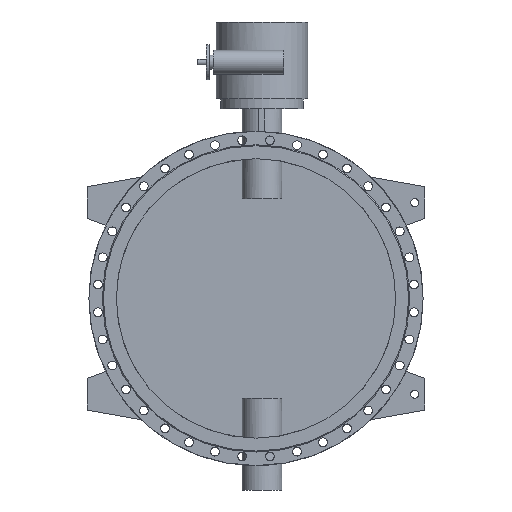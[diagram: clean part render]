
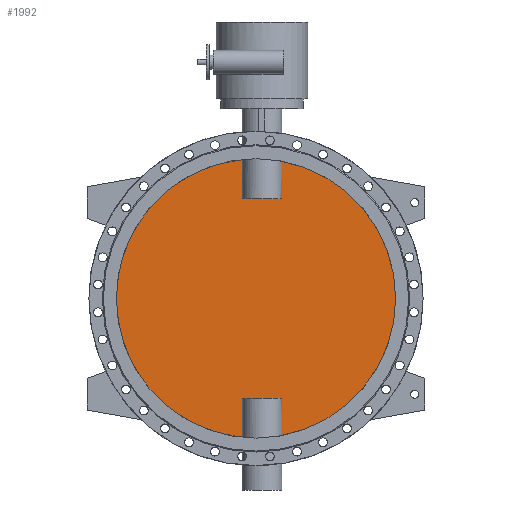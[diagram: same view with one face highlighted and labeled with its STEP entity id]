
A CAD part, front view. The second image highlights one B-rep face of the part: STEP entity #1992.
In plain terms, the highlighted planar face has unit normal (0, -1, 0).
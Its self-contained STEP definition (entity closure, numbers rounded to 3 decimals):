
#1992=ADVANCED_FACE('',(#4228),#4230,.F.);
#4228=FACE_BOUND('',#4229,.T.);
#4229=EDGE_LOOP('',(#5234,#5235,#5236,#5237,#5238,#5239,#5240,#5241));
#4230=PLANE('',#4231);
#4231=AXIS2_PLACEMENT_3D('',#4232,#4233,#4234);
#4232=CARTESIAN_POINT('',(0.,-5.,0.));
#4233=DIRECTION('',(0.,1.,0.));
#4234=DIRECTION('',(1.,0.,0.));
#5234=ORIENTED_EDGE('',*,*,#5737,.T.);
#5235=ORIENTED_EDGE('',*,*,#5743,.T.);
#5236=ORIENTED_EDGE('',*,*,#5744,.T.);
#5237=ORIENTED_EDGE('',*,*,#5745,.T.);
#5238=ORIENTED_EDGE('',*,*,#5739,.T.);
#5239=ORIENTED_EDGE('',*,*,#5746,.T.);
#5240=ORIENTED_EDGE('',*,*,#5747,.T.);
#5241=ORIENTED_EDGE('',*,*,#5748,.T.);
#5737=EDGE_CURVE('',#6585,#6586,#6587,.F.);
#5739=EDGE_CURVE('',#6590,#6588,#6591,.F.);
#5743=EDGE_CURVE('',#6586,#6597,#6598,.T.);
#5744=EDGE_CURVE('',#6597,#6599,#6600,.F.);
#5745=EDGE_CURVE('',#6599,#6590,#6601,.F.);
#5746=EDGE_CURVE('',#6588,#6602,#6603,.F.);
#5747=EDGE_CURVE('',#6602,#6604,#6605,.F.);
#5748=EDGE_CURVE('',#6604,#6585,#6606,.T.);
#6585=VERTEX_POINT('',#9445);
#6586=VERTEX_POINT('',#9446);
#6587=CIRCLE('',#9447,700.);
#6588=VERTEX_POINT('',#9451);
#6590=VERTEX_POINT('',#9512);
#6591=CIRCLE('',#9513,700.);
#6597=VERTEX_POINT('',#9652);
#6598=LINE('',#9653,#9654);
#6599=VERTEX_POINT('',#9656);
#6600=LINE('',#9657,#9658);
#6601=LINE('',#9660,#9661);
#6602=VERTEX_POINT('',#9663);
#6603=LINE('',#9664,#9665);
#6604=VERTEX_POINT('',#9667);
#6605=LINE('',#9668,#9669);
#6606=LINE('',#9671,#9672);
#9445=CARTESIAN_POINT('',(129.875,-5.,-687.846));
#9446=CARTESIAN_POINT('',(129.875,-5.,687.846));
#9447=AXIS2_PLACEMENT_3D('',#9448,#9449,#9450);
#9448=CARTESIAN_POINT('',(0.,-5.,0.));
#9449=DIRECTION('',(0.,1.,0.));
#9450=DIRECTION('',(0.186,0.,0.983));
#9451=CARTESIAN_POINT('',(-69.875,-5.,-696.504));
#9512=CARTESIAN_POINT('',(-69.875,-5.,696.504));
#9513=AXIS2_PLACEMENT_3D('',#9514,#9515,#9516);
#9514=CARTESIAN_POINT('',(0.,-5.,0.));
#9515=DIRECTION('',(0.,1.,0.));
#9516=DIRECTION('',(-0.1,0.,-0.995));
#9652=CARTESIAN_POINT('',(129.875,-5.,500.));
#9653=CARTESIAN_POINT('',(129.875,-5.,687.846));
#9654=VECTOR('',#9655,1.);
#9655=DIRECTION('',(0.,0.,-1.));
#9656=CARTESIAN_POINT('',(-69.875,-5.,500.));
#9657=CARTESIAN_POINT('',(-69.875,-5.,500.));
#9658=VECTOR('',#9659,1.);
#9659=DIRECTION('',(1.,0.,0.));
#9660=CARTESIAN_POINT('',(-69.875,-5.,696.504));
#9661=VECTOR('',#9662,1.);
#9662=DIRECTION('',(0.,0.,-1.));
#9663=CARTESIAN_POINT('',(-69.875,-5.,-500.));
#9664=CARTESIAN_POINT('',(-69.875,-5.,-500.));
#9665=VECTOR('',#9666,1.);
#9666=DIRECTION('',(0.,0.,-1.));
#9667=CARTESIAN_POINT('',(129.875,-5.,-500.));
#9668=CARTESIAN_POINT('',(129.875,-5.,-500.));
#9669=VECTOR('',#9670,1.);
#9670=DIRECTION('',(-1.,0.,0.));
#9671=CARTESIAN_POINT('',(129.875,-5.,-500.));
#9672=VECTOR('',#9673,1.);
#9673=DIRECTION('',(0.,0.,-1.));
